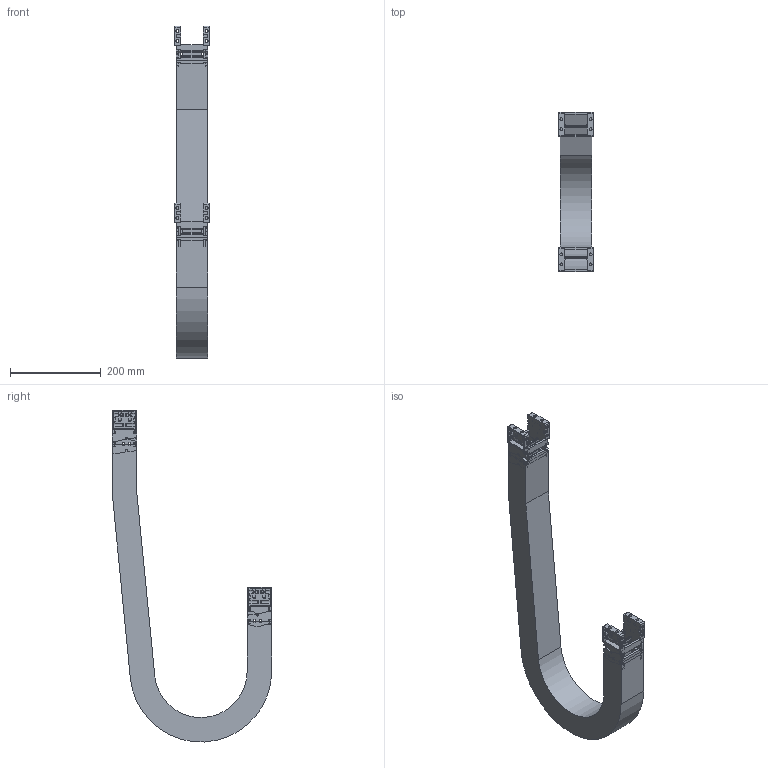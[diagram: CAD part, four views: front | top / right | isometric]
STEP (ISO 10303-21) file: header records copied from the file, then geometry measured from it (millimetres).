
FILE_DESCRIPTION((''),'2;1');
FILE_NAME('KST-40050-125_ASM','2017-12-06T',('KUNI004K'),(''),'PRO/ENGINEER BY PARAMETRIC TECHNOLOGY CORPORATION, 2015200','PRO/ENGINEER BY PARAMETRIC TECHNOLOGY CORPORATION, 2015200','');
FILE_SCHEMA(('AUTOMOTIVE_DESIGN { 1 0 10303 214 1 1 1 1 }'));
Length unit declared in the file: millimetre
Products named in the file (13): 40FBR; 40FBL; 40050C; KST40FB_W050_ASM; KST40125R; KST40125L; 40050H; KST40050-125_1_ASM; KST40050_R125_BODY; 40MBR; 40MBL; KST40MB_W050_ASM; KST-40050-125_ASM
Assembly tree (19 placements, depth 3):
  KST-40050-125_ASM
    KST40FB_W050_ASM
      40FBR
      40FBL
      40050C  x2
    KST40050-125_1_ASM  x2
      KST40125R
      KST40125L
      40050C
      40050H
    KST40050_R125_BODY
    KST40MB_W050_ASM
      40MBR
      40MBL
      40050C  x2
Bounding box: 76 x 351 x 731.36 mm (x, y, z)
Volume: 1955079.4 mm3; surface area: 651380.9 mm2
Topology: 21 solids, 21 shells, 2600 faces, 7054 edges, 4524 vertices
Faces by surface type: plane 1334, cylinder 898, bspline 304, torus 64
Entity records: 65437 total; most frequent: CARTESIAN_POINT 13362, ORIENTED_EDGE 6984, DIRECTION 6322, PRESENTATION_STYLE_ASSIGNMENT 4768, STYLED_ITEM 4768, CURVE_STYLE 3492, EDGE_CURVE 3492, VERTEX_POINT 2256
